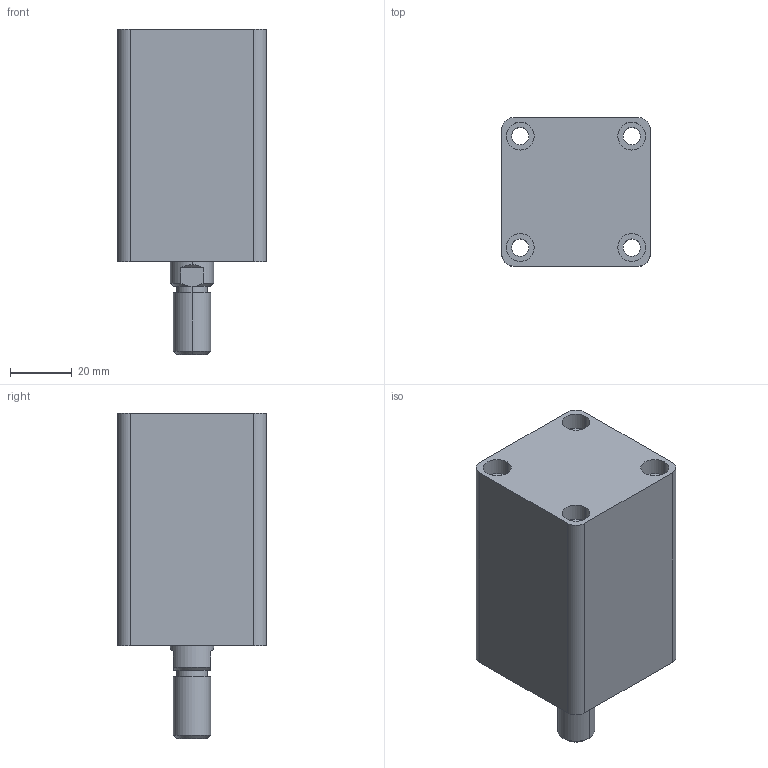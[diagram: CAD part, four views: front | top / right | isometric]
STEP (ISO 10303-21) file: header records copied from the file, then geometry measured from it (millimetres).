
FILE_DESCRIPTION (( 'STEP AP203' ), '1' );
FILE_NAME ('HTB-SD25-30W.STEP', '2019-10-07T06:00:01', ( '微软用户' ), ( '微软中国' ), 'SwSTEP 2.0', 'SolidWorks 2012', '' );
FILE_SCHEMA (( 'CONFIG_CONTROL_DESIGN' ));
Length unit declared in the file: millimetre
Products named in the file (3): HTB-SD25-30W活塞杆; HTB-SD25-30W; HTB-SD25-30掛极
Assembly tree (2 placements, depth 2):
  HTB-SD25-30W
    HTB-SD25-30掛极
    HTB-SD25-30W活塞杆
Bounding box: 48 x 48 x 105 mm (x, y, z)
Volume: 155107.2 mm3; surface area: 35242.8 mm2
Topology: 2 solids, 2 shells, 87 faces, 188 edges, 122 vertices
Faces by surface type: cylinder 44, plane 29, cone 8, torus 6
Entity records: 2759 total; most frequent: DIRECTION 476, CARTESIAN_POINT 446, ORIENTED_EDGE 376, AXIS2_PLACEMENT_3D 204, EDGE_CURVE 188, VERTEX_POINT 122, CIRCLE 112, EDGE_LOOP 112
